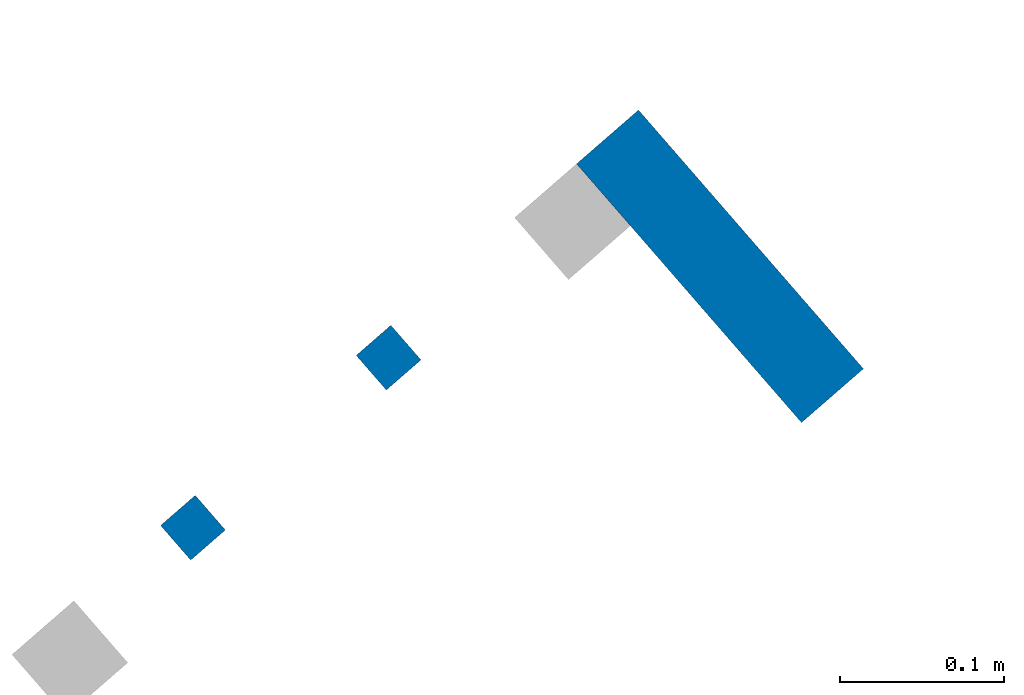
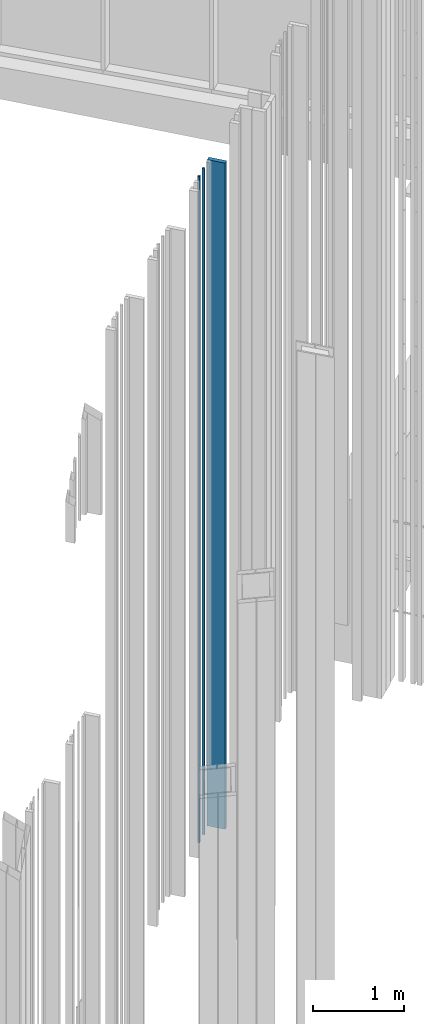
# One storey, part 266 of 390: 3 walls.
"""IFC2X3 building model written with IfcOpenShell, lengths in millimetres."""

from ifc_helpers import new_model, entity, si_unit, converted_unit, derived_unit, money_unit, direction, frame, origin_with_axes, place, context, subcontext, project, spatial, faceted_brep, material, type_object, element, save


model = new_model("IFC2X3")

# Units and contexts
model_context = context("Model", 3, precision=1e-05, world=origin_with_axes(), true_north=direction((0.0, 1.0)))
body_context = subcontext(model_context, "Body", "Model", "MODEL_VIEW")
ifc_project = project(units=[si_unit("LENGTHUNIT", "METRE", prefix="MILLI"), si_unit("AREAUNIT", "SQUARE_METRE"), si_unit("VOLUMEUNIT", "CUBIC_METRE"), converted_unit("PLANEANGLEUNIT", "DEGREE", entity("IfcPlaneAngleMeasure", 0.0174532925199), si_unit("PLANEANGLEUNIT", "RADIAN"), dimensions=[0, 0, 0, 0, 0, 0, 0]), si_unit("SOLIDANGLEUNIT", "STERADIAN"), money_unit("EUR"), converted_unit("TIMEUNIT", "Year", entity("IfcTimeMeasure", 31556926.0), si_unit("TIMEUNIT", "SECOND"), dimensions=[0, 0, 1, 0, 0, 0, 0]), si_unit("MASSUNIT", "GRAM", prefix="KILO"), si_unit("THERMODYNAMICTEMPERATUREUNIT", "DEGREE_CELSIUS"), si_unit("LUMINOUSINTENSITYUNIT", "LUMEN"), si_unit("ENERGYUNIT", "JOULE", prefix="MEGA"), derived_unit("THERMALCONDUCTANCEUNIT", [(si_unit("POWERUNIT", "WATT"), 1), (si_unit("LENGTHUNIT", "METRE"), -1), (si_unit("THERMODYNAMICTEMPERATUREUNIT", "KELVIN"), -1)]), derived_unit("SPECIFICHEATCAPACITYUNIT", [(si_unit("ENERGYUNIT", "JOULE"), 1), (si_unit("MASSUNIT", "GRAM", prefix="KILO"), -1), (si_unit("THERMODYNAMICTEMPERATUREUNIT", "KELVIN"), -1)]), derived_unit("MASSDENSITYUNIT", [(si_unit("MASSUNIT", "GRAM", prefix="KILO"), 1), (si_unit("VOLUMEUNIT", "CUBIC_METRE"), -1)])], contexts=[model_context])

# Site, building, storey
site_placement = place(None, origin_with_axes())
site = spatial("IfcSite", under=ifc_project, at=site_placement, Name="Site", CompositionType="ELEMENT")
building_placement = place(site_placement, origin_with_axes())
building = spatial("IfcBuilding", under=site, at=building_placement, Name="Building", CompositionType="ELEMENT")
storey_placement = place(building_placement, origin_with_axes())
storey = spatial("IfcBuildingStorey", under=building, at=storey_placement, Name="1 korrus", CompositionType="ELEMENT", Elevation=0.0)

# Walls
ifc_material = material(Name="Site specified")
wall_type = type_object("IfcWallType", Name="Puitfassaadi ribistik", PredefinedType="NOTDEFINED")
for number, where, z_axis, x_axis, name in (
    (1, (168334.394273, 90976.0482587, 935.0), (0.0, 0.0, 1.0), (-0.754709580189, -0.65605902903, 0.0), "Site specified"),
    (2, (168215.15016, 90872.3909321, 935.0), (0.0, 0.0, 1.0), (-0.754709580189, -0.65605902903, 0.0), "Site specified"),
):
    element("IfcWall", number, at=place(storey_placement, frame(where, z_axis=z_axis, x_axis=x_axis)), inside=storey, type_object=wall_type, material=ifc_material, Name=name, context=body_context, shape_type="Brep", body=[
        faceted_brep([(-14.0, -14.0, 8930.0), (-14.0, -14.0, 0.0), (14.0, -14.0, 0.0), (14.0, -14.0, 8930.0), (-14.0, 14.0, 8930.0), (-14.0, 14.0, 0.0), (14.0, 14.0, 0.0), (14.0, 14.0, 8930.0)], [[[0, 1, 2, 3]], [[4, 5, 1, 0]], [[2, 1, 5, 6]], [[3, 2, 6, 7]], [[4, 0, 3, 7]], [[7, 6, 5, 4]]]),
    ])
wall_placement = place(storey_placement, frame((168536.407726, 91031.7421982, 935.0), z_axis=(0.0, 0.0, 1.0), x_axis=(-0.754709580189, -0.65605902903, 0.0)))
element("IfcWall", 3, at=wall_placement, inside=storey, type_object=wall_type, material=ifc_material, Name="Site specified", context=body_context, shape_type="Brep", body=[
    faceted_brep([(-25.0, -104.5, 8930.0), (-25.0, -104.5, 0.0), (25.0, -104.5, 0.0), (25.0, -104.5, 8930.0), (-25.0, 104.5, 8930.0), (-25.0, 104.5, 0.0), (25.0, 104.5, 0.0), (25.0, 104.5, 8930.0)], [[[0, 1, 2, 3]], [[4, 5, 1, 0]], [[2, 1, 5, 6]], [[3, 2, 6, 7]], [[4, 0, 3, 7]], [[7, 6, 5, 4]]]),
])

save(model, "model.ifc")
